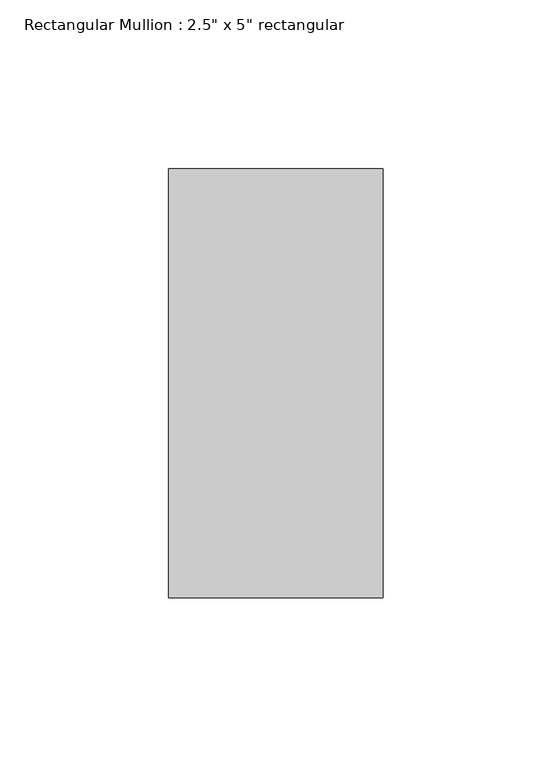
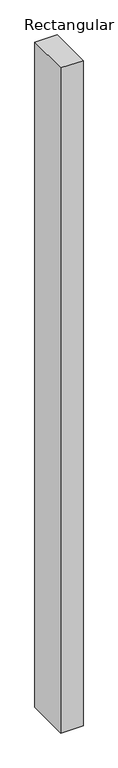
"""IFC4 building model written with IfcOpenShell, lengths in millimetres: member geometry."""

import ifcopenshell
import ifcopenshell.guid

model = None  # the IFC model being written
_history = None  # IfcOwnerHistory: only IFC2X3 demands one
_inside = {}  # id of a spatial element -> (the spatial element, [elements in it])
_under = {}  # id of a project, library or spatial element -> (it, [spatial elements below it])
_declared = {}  # id of a project -> (the project, [libraries it declares])
_typed = {}  # id of a type object -> (the type object, [elements of that type])
_made_of = {}  # id of a material, layer set ... -> (it, [elements and type objects made of it])


def new_model(schema):
    """Start an empty IFC model of exactly this schema.

    Asked for "IFC4X3", IfcOpenShell would pick the latest addendum, in which some entities
    have other attributes; the version numbers below select the first issue.
    IFC2X3 requires an IfcOwnerHistory on every rooted entity: one is made here for all.
    """
    global model, _history
    if schema == "IFC4X3":
        model = ifcopenshell.file(schema_version=(4, 3, 0, 0))
    else:
        model = ifcopenshell.file(schema=schema)
    _inside.clear()
    _under.clear()
    _declared.clear()
    _typed.clear()
    _made_of.clear()
    _history = None
    if model.schema == "IFC2X3":
        org = make("IfcOrganization", Name="unknown")
        user = make(
            "IfcPersonAndOrganization",
            ThePerson=make("IfcPerson", FamilyName="unknown"),
            TheOrganization=org,
        )
        app = make(
            "IfcApplication",
            ApplicationDeveloper=org,
            Version="unknown",
            ApplicationFullName="unknown",
            ApplicationIdentifier="unknown",
        )
        _history = make(
            "IfcOwnerHistory",
            OwningUser=user,
            OwningApplication=app,
            ChangeAction="ADDED",
            CreationDate=0,
        )
    return model


def make(cls, **values):
    """One entity of the class cls with the attributes given. An attribute that is None is left unset."""
    return model.create_entity(
        cls, **{name: value for name, value in values.items() if value is not None}
    )


def rooted(cls, **values):
    """An entity with a GlobalId (a new one), such as an element, a storey or a relation."""
    return make(cls, GlobalId=ifcopenshell.guid.new(), OwnerHistory=_history, **values)


def si_unit(unit_type, name, prefix=None):
    """IfcSIUnit, for example si_unit("LENGTHUNIT", "METRE", prefix="MILLI")."""
    return make("IfcSIUnit", UnitType=unit_type, Prefix=prefix, Name=name)


def assignment(units):
    """IfcUnitAssignment: the units of a project."""
    return None if units is None else make("IfcUnitAssignment", Units=units)


def point(xyz):
    """IfcCartesianPoint."""
    return None if xyz is None else make("IfcCartesianPoint", Coordinates=xyz)


def direction(xyz):
    """IfcDirection."""
    return None if xyz is None else make("IfcDirection", DirectionRatios=xyz)


def frame(location, z_axis=None, x_axis=None):
    """IfcAxis2Placement3D, a coordinate frame: its origin and axes. An axis left out is left unset."""
    return make(
        "IfcAxis2Placement3D",
        Location=point(location),
        Axis=direction(z_axis),
        RefDirection=direction(x_axis),
    )


def origin():
    """The frame at (0, 0, 0) with its axes left unset."""
    return frame((0.0, 0.0, 0.0))


def place(relative_to, where):
    """IfcLocalPlacement: puts the frame where relative to a parent placement (None: the world)."""
    return make(
        "IfcLocalPlacement", PlacementRelTo=relative_to, RelativePlacement=where
    )


def context(
    kind, dimensions, precision=None, world=None, true_north=None, identifier=None
):
    """IfcGeometricRepresentationContext, for example the 3D "Model" context."""
    return make(
        "IfcGeometricRepresentationContext",
        ContextIdentifier=identifier,
        ContextType=kind,
        CoordinateSpaceDimension=dimensions,
        Precision=precision,
        WorldCoordinateSystem=world,
        TrueNorth=true_north,
    )


def project(units=None, contexts=None):
    """IfcProject with its units and contexts."""
    return rooted(
        "IfcProject",
        Name="project",
        RepresentationContexts=contexts,
        UnitsInContext=assignment(units),
    )


def spatial(cls, under=None, at=None, **own):
    """A site, building, storey or space (cls), placed at a placement, below another one or the project."""
    s = rooted(cls, ObjectPlacement=at, **own)
    if under is not None:
        _under.setdefault(under.id(), (under, []))[1].append(s)
    return s


def polyline(points):
    """IfcPolyline through the points."""
    return make("IfcPolyline", Points=[point(p) for p in points])


def outline(outer, holes=None, kind="AREA"):
    """IfcArbitraryClosedProfileDef: a profile drawn as a closed curve; with holes, ...WithVoids."""
    if holes is None:
        return make("IfcArbitraryClosedProfileDef", ProfileType=kind, OuterCurve=outer)
    return make(
        "IfcArbitraryProfileDefWithVoids",
        ProfileType=kind,
        OuterCurve=outer,
        InnerCurves=holes,
    )


def extrude(swept, where, along, depth):
    """IfcExtrudedAreaSolid: the profile swept, set in the frame where, extruded along a direction by depth."""
    return make(
        "IfcExtrudedAreaSolid",
        SweptArea=swept,
        Position=where,
        ExtrudedDirection=direction(along),
        Depth=depth,
    )


def shape(context_of_items, identifier, shape_type, items):
    """IfcShapeRepresentation: the items that make up one representation, for example the "Body"."""
    return make(
        "IfcShapeRepresentation",
        ContextOfItems=context_of_items,
        RepresentationIdentifier=identifier,
        RepresentationType=shape_type,
        Items=items,
    )


def source(mapping_origin, context_of_items, identifier, shape_type, items):
    """IfcRepresentationMap: a shape defined once, which mapped items show again and again."""
    return make(
        "IfcRepresentationMap",
        MappingOrigin=mapping_origin,
        MappedRepresentation=shape(context_of_items, identifier, shape_type, items),
    )


def transform(
    local_origin,
    x_axis=None,
    y_axis=None,
    z_axis=None,
    scale=None,
    scale2=None,
    scale3=None,
    uniform=True,
):
    """IfcCartesianTransformationOperator3D, or its non-uniform kind. x_axis, y_axis, z_axis: its Axis1, 2, 3."""
    if uniform:
        return make(
            "IfcCartesianTransformationOperator3D",
            Axis1=direction(x_axis),
            Axis2=direction(y_axis),
            LocalOrigin=point(local_origin),
            Scale=scale,
            Axis3=direction(z_axis),
        )
    return make(
        "IfcCartesianTransformationOperator3DnonUniform",
        Axis1=direction(x_axis),
        Axis2=direction(y_axis),
        LocalOrigin=point(local_origin),
        Scale=scale,
        Axis3=direction(z_axis),
        Scale2=scale2,
        Scale3=scale3,
    )


def mapped(mapping_source, mapping_target):
    """IfcMappedItem: shows the shape of a source again, moved by a transform."""
    return make(
        "IfcMappedItem", MappingSource=mapping_source, MappingTarget=mapping_target
    )


def made_of(thing, what):
    """Note that an element or type object is made of a material, layer set ...; save() writes the relation."""
    if what is not None:
        _made_of.setdefault(what.id(), (what, []))[1].append(thing)
    return thing


def element(
    cls,
    number,
    at=None,
    inside=None,
    cuts=None,
    type_object=None,
    material=None,
    context=None,
    identifier="Body",
    shape_type=None,
    held_by="IfcProductDefinitionShape",
    body=None,
    shapes=None,
    **own,
):
    """One element of the class cls, such as IfcWall. Its Tag is "e" and its number.

    at: its placement. inside: the storey or other place that contains it. cuts: it is an
    opening in that element (IfcRelVoidsElement). A single representation is given by context,
    identifier, shape_type and body (its items); several are given by shapes. held_by: the class
    of the entity that holds the representations. save() writes the other relations.
    """
    e = rooted(cls, Tag="e%d" % number, ObjectPlacement=at, **own)
    if body is not None:
        shapes = [shape(context, identifier, shape_type, body)]
    if shapes is not None:
        e.Representation = make(held_by, Representations=shapes)
    if inside is not None:
        _inside.setdefault(inside.id(), (inside, []))[1].append(e)
    if cuts is not None:
        rooted(
            "IfcRelVoidsElement", RelatingBuildingElement=cuts, RelatedOpeningElement=e
        )
    if type_object is not None:
        _typed.setdefault(type_object.id(), (type_object, []))[1].append(e)
    return made_of(e, material)


def aggregate(whole, parts):
    """IfcRelAggregates: a whole, such as a stair, and the parts it consists of."""
    return rooted("IfcRelAggregates", RelatingObject=whole, RelatedObjects=parts)


def save(model, path):
    """Write the relations noted so far, then the file.

    IfcRelAggregates (storeys below a building ...), IfcRelContainedInSpatialStructure (elements
    in a storey), IfcRelDefinesByType, IfcRelAssociatesMaterial and IfcRelDeclares: one each for
    every whole, place, type object, material and project.
    """
    for whole, parts in _under.values():
        aggregate(whole, parts)
    for where, things in _inside.values():
        rooted(
            "IfcRelContainedInSpatialStructure",
            RelatedElements=things,
            RelatingStructure=where,
        )
    for kind, things in _typed.values():
        rooted("IfcRelDefinesByType", RelatedObjects=things, RelatingType=kind)
    for what, things in _made_of.values():
        rooted("IfcRelAssociatesMaterial", RelatedObjects=things, RelatingMaterial=what)
    for by, libraries in _declared.values():
        rooted("IfcRelDeclares", RelatingContext=by, RelatedDefinitions=libraries)
    model.write(path)


def member_3d213ca6(model_context):
    return source(origin(), model_context, "Body", "SweptSolid", [
        extrude(outline(polyline([(31.75, 63.5), (31.75, -63.5), (-31.75, -63.5), (-31.75, 63.5), (31.75, 63.5)])), frame((0.0, 0.0, -2000.25), z_axis=(0.0, 0.0, 1.0), x_axis=(1.0, 0.0, 0.0)), (0.0, 0.0, 1.0), 2000.25),
    ])


if __name__ == "__main__":
    model = new_model("IFC4")
    model_context = context("Model", 3, world=origin())
    ifc_project = project(units=[si_unit("LENGTHUNIT", "METRE", prefix="MILLI")], contexts=[model_context])
    site = spatial("IfcSite", under=ifc_project)
    building = spatial("IfcBuilding", under=site)
    placement = place(None, origin())
    member_shape = member_3d213ca6(model_context)
    element("IfcMember", 1, ObjectType="Rectangular Mullion : 2.5\" x 5\" rectangular", at=placement, inside=building, context=model_context, shape_type="MappedRepresentation", body=[
        mapped(member_shape, transform((0.0, 0.0, 0.0), x_axis=(1.0, 0.0, 0.0), y_axis=(0.0, 1.0, 0.0), z_axis=(0.0, 0.0, 1.0))),
    ])
    save(model, "model.ifc")
